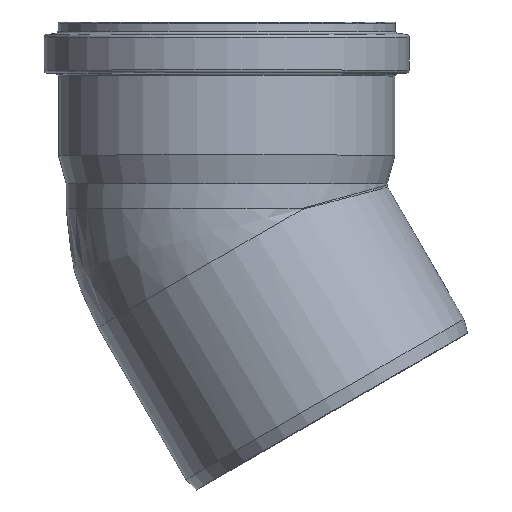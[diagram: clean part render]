
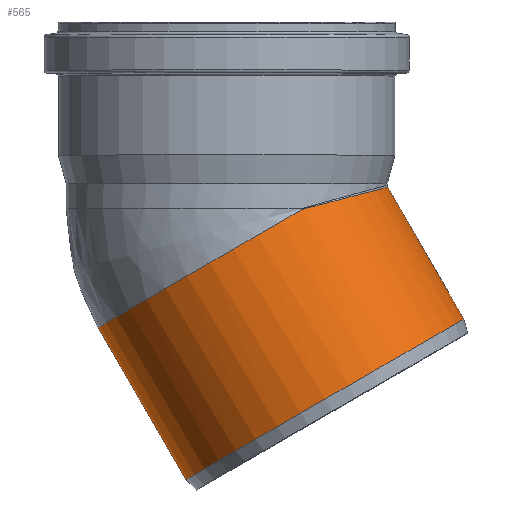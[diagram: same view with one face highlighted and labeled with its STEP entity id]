
A CAD part, top view. The second image highlights one B-rep face of the part: STEP entity #565.
In plain terms, the highlighted cylindrical face has radius 80.1 mm (diameter 160.2 mm), a full revolution.
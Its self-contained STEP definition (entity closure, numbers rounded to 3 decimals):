
#50=LINE('',#1137,#68);
#68=VECTOR('',#832,80.1);
#78=CIRCLE('',#609,80.1);
#111=CIRCLE('',#661,80.1);
#144=CYLINDRICAL_SURFACE('',#660,80.1);
#168=FACE_OUTER_BOUND('',#204,.T.);
#204=EDGE_LOOP('',(#470,#471,#472,#473,#474,#475));
#221=ELLIPSE('',#604,83.066,80.1);
#222=ELLIPSE('',#605,83.066,80.1);
#228=VERTEX_POINT('',#958);
#231=VERTEX_POINT('',#979);
#232=VERTEX_POINT('',#996);
#262=VERTEX_POINT('',#1135);
#287=EDGE_CURVE('',#231,#232,#221,.T.);
#288=EDGE_CURVE('',#232,#228,#222,.T.);
#292=EDGE_CURVE('',#231,#228,#78,.T.);
#336=EDGE_CURVE('',#262,#262,#111,.T.);
#337=EDGE_CURVE('',#262,#232,#50,.T.);
#470=ORIENTED_EDGE('',*,*,#336,.F.);
#471=ORIENTED_EDGE('',*,*,#337,.T.);
#472=ORIENTED_EDGE('',*,*,#287,.F.);
#473=ORIENTED_EDGE('',*,*,#292,.T.);
#474=ORIENTED_EDGE('',*,*,#288,.F.);
#475=ORIENTED_EDGE('',*,*,#337,.F.);
#565=ADVANCED_FACE('',(#168),#144,.T.);
#604=AXIS2_PLACEMENT_3D('',#997,#706,#707);
#605=AXIS2_PLACEMENT_3D('',#998,#708,#709);
#609=AXIS2_PLACEMENT_3D('',#1025,#717,#718);
#660=AXIS2_PLACEMENT_3D('',#1134,#828,#829);
#661=AXIS2_PLACEMENT_3D('',#1136,#830,#831);
#706=DIRECTION('center_axis',(-0.253,0.968,0.));
#707=DIRECTION('ref_axis',(0.968,0.253,0.));
#708=DIRECTION('center_axis',(-0.253,0.968,0.));
#709=DIRECTION('ref_axis',(0.968,0.253,0.));
#717=DIRECTION('center_axis',(0.5,-0.866,0.));
#718=DIRECTION('ref_axis',(0.866,0.5,0.));
#828=DIRECTION('center_axis',(0.5,-0.866,0.));
#829=DIRECTION('ref_axis',(-0.866,-0.5,0.));
#830=DIRECTION('center_axis',(0.5,-0.866,0.));
#831=DIRECTION('ref_axis',(0.866,0.5,0.));
#832=DIRECTION('',(-0.5,0.866,0.));
#958=CARTESIAN_POINT('',(37.786,-0.47,-70.695));
#979=CARTESIAN_POINT('',(37.786,-0.47,70.695));
#996=CARTESIAN_POINT('',(80.368,10.656,0.));
#997=CARTESIAN_POINT('Origin',(0.,-10.343,0.));
#998=CARTESIAN_POINT('Origin',(0.,-10.343,0.));
#1025=CARTESIAN_POINT('Origin',(5.171,-19.3,0.));
#1134=CARTESIAN_POINT('Origin',(27.086,-57.257,0.));
#1135=CARTESIAN_POINT('',(118.369,-55.163,0.));
#1136=CARTESIAN_POINT('Origin',(49.,-95.213,0.));
#1137=CARTESIAN_POINT('',(96.454,-17.207,0.));
